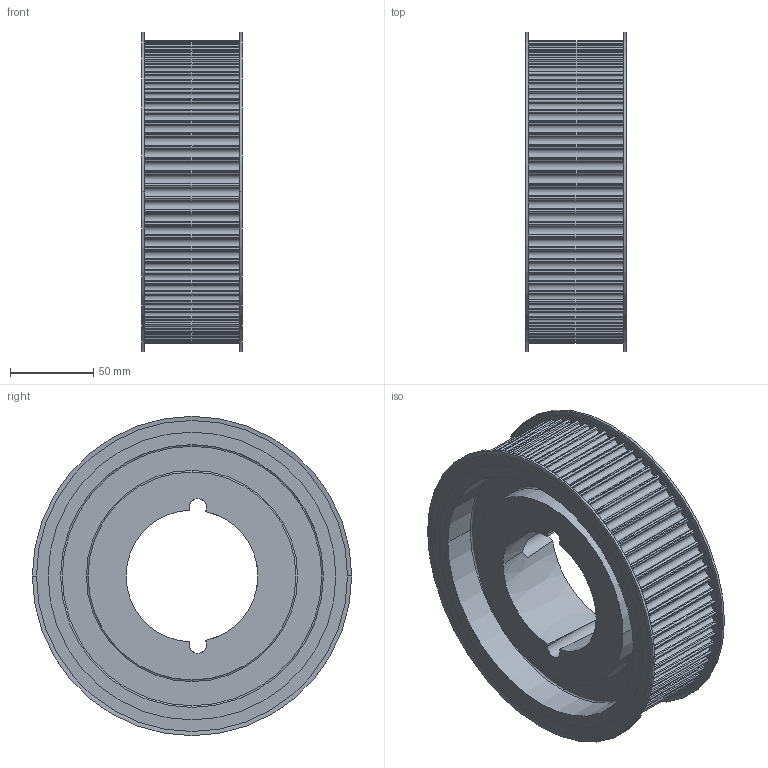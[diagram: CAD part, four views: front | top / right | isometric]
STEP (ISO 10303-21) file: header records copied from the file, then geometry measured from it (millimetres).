
FILE_DESCRIPTION( ( '' ), '1' );
FILE_NAME( 'C:/Users/Stangenbergd/Documents/CAD_Step/1/17477436.stp', '2021-10-19T10:20:57', ( '' ), ( '' ), ' ', ' ', ' ' );
FILE_SCHEMA( ( 'CONFIG_CONTROL_DESIGN' ) );
Length unit declared in the file: millimetre
Products named in the file (1): 1
Bounding box: 60.4 x 192 x 192 mm (x, y, z)
Volume: 778109.9 mm3; surface area: 146623.1 mm2
Topology: 1 solids, 1 shells, 488 faces, 1431 edges, 951 vertices
Faces by surface type: cylinder 312, plane 154, cone 14, torus 8
Entity records: 16669 total; most frequent: DIRECTION 3059, CARTESIAN_POINT 3017, ORIENTED_EDGE 2858, EDGE_CURVE 1429, AXIS2_PLACEMENT_3D 1153, VERTEX_POINT 951, LINE 753, VECTOR 753
